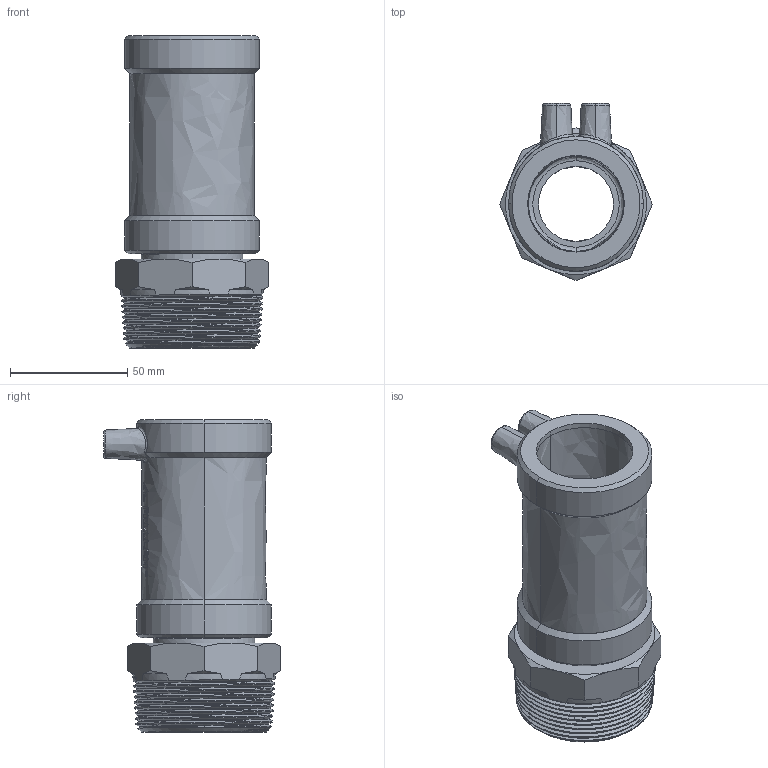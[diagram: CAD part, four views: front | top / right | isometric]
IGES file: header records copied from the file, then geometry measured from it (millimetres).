
Start section:  PTC IGES file: mun_d40_2_01.igs
Global section: file name: mun_d40_2_01.igs; native system: Pro/ENGINEER by Parametric Technology Corporation; preprocessor: 2011490; author: mtunjic; organization: Unknown; date: 20130823.151712; units: millimetre
Bounding box: 65.12 x 75.36 x 133.4 mm (x, y, z)
Surface area: 51249.4 mm2 (no closed solid volume)
Topology: 0 solids, 0 shells, 284 faces, 1490 edges, 1490 vertices
Faces by surface type: bspline 284
